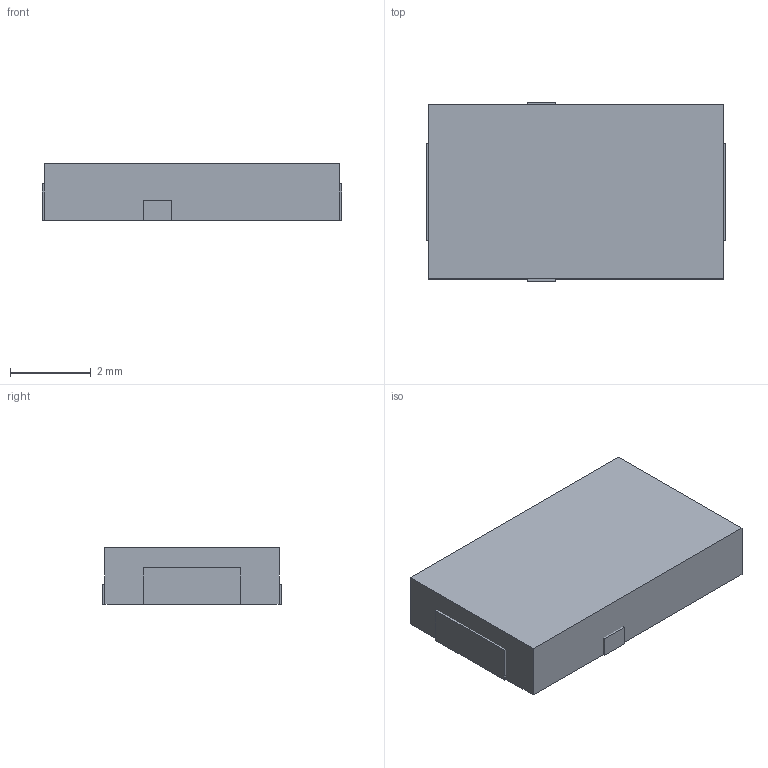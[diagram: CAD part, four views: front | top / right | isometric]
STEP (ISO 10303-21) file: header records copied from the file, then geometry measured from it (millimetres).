
FILE_DESCRIPTION((''),'2;1');
FILE_NAME('Y:\CADデータ\AutoCAD\貞安\7.3D\製品図\営業依頼分\1.SPC\LT1.5.stp','2013-09-27T13:47:31',('4024630'),(''),'Autodesk Inventor 2012','Autodesk Inventor 2012','');
FILE_SCHEMA(('AUTOMOTIVE_DESIGN { 1 0 10303 214 1 1 1 1 }'));
Length unit declared in the file: millimetre
Products named in the file (5): LT1.5; 端子1; 端子2; 端子3
Assembly tree (4 placements, depth 2):
  LT1.5
    LT1.5
    端子1
    端子2
    端子3
Bounding box: 7.4 x 4.4 x 1.4 mm (x, y, z)
Volume: 44.4 mm3; surface area: 133.8 mm2
Topology: 4 solids, 4 shells, 60 faces, 156 edges, 104 vertices
Faces by surface type: plane 60
Entity records: 1949 total; most frequent: CARTESIAN_POINT 329, ORIENTED_EDGE 312, DIRECTION 294, VECTOR 156, LINE 156, EDGE_CURVE 156, VERTEX_POINT 104, AXIS2_PLACEMENT_3D 69
